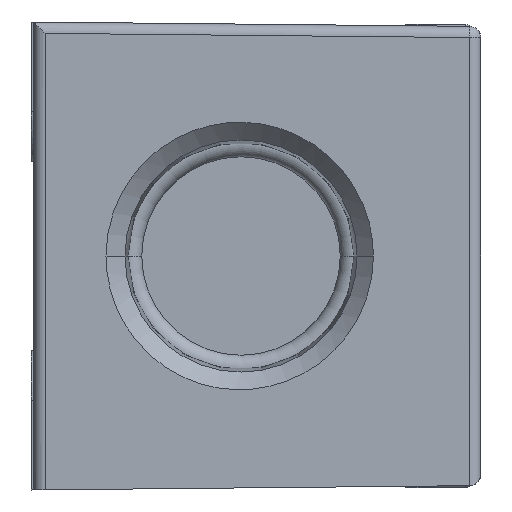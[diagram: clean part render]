
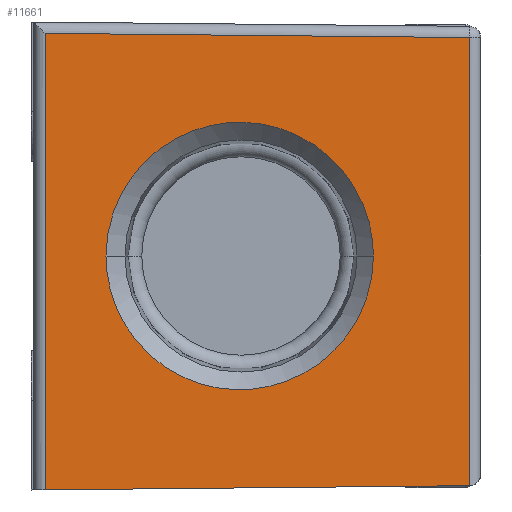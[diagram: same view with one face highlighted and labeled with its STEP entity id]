
A CAD part, front view. The second image highlights one B-rep face of the part: STEP entity #11661.
In plain terms, the highlighted planar face has unit normal (0.01, -1, 0).
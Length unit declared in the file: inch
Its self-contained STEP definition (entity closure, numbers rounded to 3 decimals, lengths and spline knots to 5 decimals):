
#3466=DIRECTION('',(0.,0.,1.));
#3467=VECTOR('',#3466,1.82891);
#3468=CARTESIAN_POINT('',(-0.79956,-3.68445,
-0.93695));
#3469=LINE('',#3468,#3467);
#3480=DIRECTION('',(-1.,-0.01,0.01));
#3481=VECTOR('',#3480,1.70017);
#3482=CARTESIAN_POINT('',(0.90044,-3.66769,
0.87519));
#3483=LINE('',#3482,#3481);
#3523=DIRECTION('',(-1.,-0.01,-0.01));
#3524=VECTOR('',#3523,1.70017);
#3525=CARTESIAN_POINT('',(0.90044,-3.66769,
-0.92019));
#3526=LINE('',#3525,#3524);
#3527=CARTESIAN_POINT('',(0.51549,-3.67149,0.));
#3528=CARTESIAN_POINT('',(0.51549,-3.67149,
-0.03157));
#3529=CARTESIAN_POINT('',(0.50988,-3.67154,
-0.09707));
#3530=CARTESIAN_POINT('',(0.48145,-3.67182,
-0.19781));
#3531=CARTESIAN_POINT('',(0.43154,-3.67231,
-0.2949));
#3532=CARTESIAN_POINT('',(0.3613,-3.67301,
-0.38156));
#3533=CARTESIAN_POINT('',(0.27463,-3.67386,
-0.45181));
#3534=CARTESIAN_POINT('',(0.19372,-3.67466,
-0.49338));
#3535=CARTESIAN_POINT('',(0.12716,-3.67531,
-0.51593));
#3536=CARTESIAN_POINT('',(0.0771,-3.67581,
-0.52763));
#3537=CARTESIAN_POINT('',(0.03591,-3.67621,
-0.53323));
#3538=CARTESIAN_POINT('',(0.00352,-3.67653,
-0.53539));
#3539=CARTESIAN_POINT('',(-0.02028,-3.67677,
-0.53592));
#3540=CARTESIAN_POINT('',(-0.04409,-3.677,
-0.53539));
#3541=CARTESIAN_POINT('',(-0.07647,-3.67732,
-0.53323));
#3542=CARTESIAN_POINT('',(-0.11767,-3.67773,
-0.52763));
#3543=CARTESIAN_POINT('',(-0.16773,-3.67822,
-0.51593));
#3544=CARTESIAN_POINT('',(-0.23429,-3.67888,
-0.49338));
#3545=CARTESIAN_POINT('',(-0.3152,-3.67968,
-0.45181));
#3546=CARTESIAN_POINT('',(-0.40187,-3.68053,
-0.38156));
#3547=CARTESIAN_POINT('',(-0.47211,-3.68122,
-0.2949));
#3548=CARTESIAN_POINT('',(-0.52201,-3.68172,
-0.19781));
#3549=CARTESIAN_POINT('',(-0.55044,-3.682,
-0.09707));
#3550=CARTESIAN_POINT('',(-0.55605,-3.68205,
-0.03157));
#3551=CARTESIAN_POINT('',(-0.55605,-3.68205,0.));
#3553=CARTESIAN_POINT('',(-0.55605,-3.68205,0.));
#3554=CARTESIAN_POINT('',(-0.55605,-3.68205,
0.03157));
#3555=CARTESIAN_POINT('',(-0.55044,-3.682,
0.09707));
#3556=CARTESIAN_POINT('',(-0.52201,-3.68172,
0.19781));
#3557=CARTESIAN_POINT('',(-0.47211,-3.68122,
0.2949));
#3558=CARTESIAN_POINT('',(-0.40187,-3.68053,
0.38156));
#3559=CARTESIAN_POINT('',(-0.3152,-3.67968,
0.45181));
#3560=CARTESIAN_POINT('',(-0.23429,-3.67888,
0.49338));
#3561=CARTESIAN_POINT('',(-0.16773,-3.67822,
0.51593));
#3562=CARTESIAN_POINT('',(-0.11767,-3.67773,
0.52763));
#3563=CARTESIAN_POINT('',(-0.07647,-3.67732,
0.53323));
#3564=CARTESIAN_POINT('',(-0.04409,-3.677,
0.53539));
#3565=CARTESIAN_POINT('',(-0.02028,-3.67677,
0.53592));
#3566=CARTESIAN_POINT('',(0.00352,-3.67653,
0.53539));
#3567=CARTESIAN_POINT('',(0.03591,-3.67621,
0.53323));
#3568=CARTESIAN_POINT('',(0.0771,-3.67581,
0.52763));
#3569=CARTESIAN_POINT('',(0.12716,-3.67531,
0.51593));
#3570=CARTESIAN_POINT('',(0.19372,-3.67466,
0.49338));
#3571=CARTESIAN_POINT('',(0.27463,-3.67386,
0.45181));
#3572=CARTESIAN_POINT('',(0.3613,-3.67301,
0.38156));
#3573=CARTESIAN_POINT('',(0.43154,-3.67231,
0.2949));
#3574=CARTESIAN_POINT('',(0.48145,-3.67182,
0.19781));
#3575=CARTESIAN_POINT('',(0.50988,-3.67154,
0.09707));
#3576=CARTESIAN_POINT('',(0.51549,-3.67149,
0.03157));
#3577=CARTESIAN_POINT('',(0.51549,-3.67149,0.));
#3583=DIRECTION('',(0.,0.,-1.));
#3584=VECTOR('',#3583,1.79538);
#3585=CARTESIAN_POINT('',(0.90044,-3.66769,
0.87519));
#3586=LINE('',#3585,#3584);
#6389=CARTESIAN_POINT('',(0.51549,-3.67149,0.));
#6390=VERTEX_POINT('',#6389);
#6391=CARTESIAN_POINT('',(-0.55605,-3.68205,0.));
#6392=VERTEX_POINT('',#6391);
#6461=CARTESIAN_POINT('',(0.90044,-3.66769,
0.87519));
#6462=CARTESIAN_POINT('',(0.90044,-3.66769,
-0.92019));
#6463=VERTEX_POINT('',#6461);
#6464=VERTEX_POINT('',#6462);
#6475=CARTESIAN_POINT('',(-0.79956,-3.68445,
0.89196));
#6476=VERTEX_POINT('',#6475);
#6481=CARTESIAN_POINT('',(-0.79956,-3.68445,
-0.93695));
#6482=VERTEX_POINT('',#6481);
#11643=CARTESIAN_POINT('',(-0.855,-3.685,-1.9922));
#11644=DIRECTION('',(0.01,-1.,0.));
#11645=DIRECTION('',(0.,0.,1.));
#11646=AXIS2_PLACEMENT_3D('',#11643,#11644,#11645);
#11647=PLANE('',#11646);
#11649=ORIENTED_EDGE('',*,*,#11648,.T.);
#11650=ORIENTED_EDGE('',*,*,#11494,.T.);
#11651=ORIENTED_EDGE('',*,*,#11623,.T.);
#11652=ORIENTED_EDGE('',*,*,#11634,.F.);
#11653=EDGE_LOOP('',(#11649,#11650,#11651,#11652));
#11654=FACE_OUTER_BOUND('',#11653,.F.);
#11656=ORIENTED_EDGE('',*,*,#11655,.F.);
#11658=ORIENTED_EDGE('',*,*,#11657,.F.);
#11659=EDGE_LOOP('',(#11656,#11658));
#11660=FACE_BOUND('',#11659,.F.);
#11661=ADVANCED_FACE('',(#11654,#11660),#11647,.T.);
#3552=B_SPLINE_CURVE_WITH_KNOTS('',3,(#3527,#3528,#3529,#3530,#3531,#3532,#3533,
#3534,#3535,#3536,#3537,#3538,#3539,#3540,#3541,#3542,#3543,#3544,#3545,#3546,
#3547,#3548,#3549,#3550,#3551),.UNSPECIFIED.,.F.,.F.,(4,1,1,1,1,1,1,1,1,1,1,1,1,
1,1,1,1,1,1,1,1,1,4),(0.,0.0625,0.125,0.1875,0.25,0.3125,0.375,
0.40625,0.4375,0.46875,0.48438,0.5,0.51563,0.53125,0.5625,
0.59375,0.625,0.6875,0.75,0.8125,0.875,0.9375,1.),
.UNSPECIFIED.);
#3578=B_SPLINE_CURVE_WITH_KNOTS('',3,(#3553,#3554,#3555,#3556,#3557,#3558,#3559,
#3560,#3561,#3562,#3563,#3564,#3565,#3566,#3567,#3568,#3569,#3570,#3571,#3572,
#3573,#3574,#3575,#3576,#3577),.UNSPECIFIED.,.F.,.F.,(4,1,1,1,1,1,1,1,1,1,1,1,1,
1,1,1,1,1,1,1,1,1,4),(0.,0.0625,0.125,0.1875,0.25,0.3125,0.375,
0.40625,0.4375,0.46875,0.48438,0.5,0.51563,0.53125,0.5625,
0.59375,0.625,0.6875,0.75,0.8125,0.875,0.9375,1.),
.UNSPECIFIED.);
#11494=EDGE_CURVE('',#6464,#6482,#3526,.T.);
#11623=EDGE_CURVE('',#6482,#6476,#3469,.T.);
#11634=EDGE_CURVE('',#6463,#6476,#3483,.T.);
#11648=EDGE_CURVE('',#6463,#6464,#3586,.T.);
#11655=EDGE_CURVE('',#6390,#6392,#3552,.T.);
#11657=EDGE_CURVE('',#6392,#6390,#3578,.T.);
